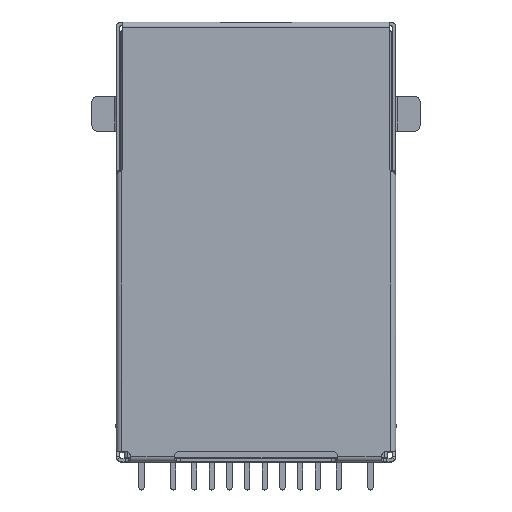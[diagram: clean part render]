
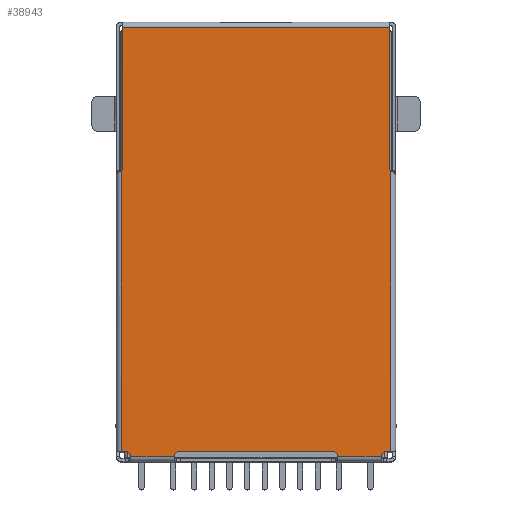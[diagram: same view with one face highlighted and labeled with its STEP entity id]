
A CAD part, top view. The second image highlights one B-rep face of the part: STEP entity #38943.
In plain terms, the highlighted planar face has unit normal (0, 0, 1).
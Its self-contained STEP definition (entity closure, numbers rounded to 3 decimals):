
#6698=DIRECTION('',(0.707,-0.707,0.));
#6699=VECTOR('',#6698,0.061);
#6700=CARTESIAN_POINT('',(7.725,-8.292,6.77));
#6701=LINE('',#6700,#6699);
#6702=CARTESIAN_POINT('',(7.538,-24.85,6.77));
#6703=DIRECTION('',(0.,0.,1.));
#6704=DIRECTION('',(0.,1.,0.));
#6705=AXIS2_PLACEMENT_3D('',#6702,#6703,#6704);
#6707=CARTESIAN_POINT('',(4.375,-24.85,6.77));
#6708=DIRECTION('',(0.,0.,1.));
#6709=DIRECTION('',(1.,0.,0.));
#6710=AXIS2_PLACEMENT_3D('',#6707,#6708,#6709);
#6712=CARTESIAN_POINT('',(-4.375,-24.85,
6.77));
#6713=DIRECTION('',(0.,0.,1.));
#6714=DIRECTION('',(0.,1.,0.));
#6715=AXIS2_PLACEMENT_3D('',#6712,#6713,#6714);
#6717=CARTESIAN_POINT('',(-7.537,-24.85,
6.77));
#6718=DIRECTION('',(0.,0.,1.));
#6719=DIRECTION('',(1.,0.,0.));
#6720=AXIS2_PLACEMENT_3D('',#6717,#6718,#6719);
#6722=DIRECTION('',(0.707,0.707,0.));
#6723=VECTOR('',#6722,0.061);
#6724=CARTESIAN_POINT('',(-7.767,-8.335,
6.77));
#6725=LINE('',#6724,#6723);
#6726=DIRECTION('',(0.,1.,0.));
#6727=VECTOR('',#6726,8.242);
#6728=CARTESIAN_POINT('',(-7.725,-8.292,
6.77));
#6729=LINE('',#6728,#6727);
#6730=DIRECTION('',(1.,0.,0.));
#6731=VECTOR('',#6730,15.45);
#6732=CARTESIAN_POINT('',(-7.725,-0.05,
6.77));
#6733=LINE('',#6732,#6731);
#6734=DIRECTION('',(0.,1.,0.));
#6735=VECTOR('',#6734,8.242);
#6736=CARTESIAN_POINT('',(7.725,-8.292,6.77));
#6737=LINE('',#6736,#6735);
#6826=DIRECTION('',(0.,-1.,0.));
#6827=VECTOR('',#6826,16.215);
#6828=CARTESIAN_POINT('',(-7.767,-8.335,
6.77));
#6829=LINE('',#6828,#6827);
#6855=DIRECTION('',(1.,0.,0.));
#6856=VECTOR('',#6855,0.231);
#6857=CARTESIAN_POINT('',(-7.767,-24.55,
6.77));
#6858=LINE('',#6857,#6856);
#7059=DIRECTION('',(1.,0.,0.));
#7060=VECTOR('',#7059,2.537);
#7061=CARTESIAN_POINT('',(-7.237,-24.85,
6.77));
#7062=LINE('',#7061,#7060);
#7075=DIRECTION('',(1.,0.,0.));
#7076=VECTOR('',#7075,8.75);
#7077=CARTESIAN_POINT('',(-4.375,-24.525,
6.77));
#7078=LINE('',#7077,#7076);
#7548=DIRECTION('',(1.,0.,0.));
#7549=VECTOR('',#7548,2.537);
#7550=CARTESIAN_POINT('',(4.7,-24.85,6.77));
#7551=LINE('',#7550,#7549);
#7560=DIRECTION('',(1.,0.,0.));
#7561=VECTOR('',#7560,0.231);
#7562=CARTESIAN_POINT('',(7.538,-24.55,6.77));
#7563=LINE('',#7562,#7561);
#7589=DIRECTION('',(0.,1.,0.));
#7590=VECTOR('',#7589,16.215);
#7591=CARTESIAN_POINT('',(7.768,-24.55,6.77));
#7592=LINE('',#7591,#7590);
#24839=CARTESIAN_POINT('',(-7.725,-0.05,
6.77));
#24840=VERTEX_POINT('',#24839);
#24842=CARTESIAN_POINT('',(-7.725,-8.292,
6.77));
#24844=VERTEX_POINT('',#24842);
#24845=CARTESIAN_POINT('',(7.725,-8.292,
6.77));
#24846=CARTESIAN_POINT('',(7.768,-8.335,
6.77));
#24847=VERTEX_POINT('',#24845);
#24848=VERTEX_POINT('',#24846);
#24849=CARTESIAN_POINT('',(7.538,-24.55,
6.77));
#24850=CARTESIAN_POINT('',(7.238,-24.85,
6.77));
#24851=VERTEX_POINT('',#24849);
#24852=VERTEX_POINT('',#24850);
#24853=CARTESIAN_POINT('',(4.7,-24.85,
6.77));
#24854=CARTESIAN_POINT('',(4.375,-24.525,
6.77));
#24855=VERTEX_POINT('',#24853);
#24856=VERTEX_POINT('',#24854);
#24857=CARTESIAN_POINT('',(-4.375,-24.525,
6.77));
#24858=CARTESIAN_POINT('',(-4.7,-24.85,
6.77));
#24859=VERTEX_POINT('',#24857);
#24860=VERTEX_POINT('',#24858);
#24861=CARTESIAN_POINT('',(-7.237,-24.85,
6.77));
#24862=CARTESIAN_POINT('',(-7.537,-24.55,
6.77));
#24863=VERTEX_POINT('',#24861);
#24864=VERTEX_POINT('',#24862);
#24865=CARTESIAN_POINT('',(-7.767,-8.335,
6.77));
#24866=VERTEX_POINT('',#24865);
#24867=CARTESIAN_POINT('',(7.725,-0.05,
6.77));
#24868=VERTEX_POINT('',#24867);
#24898=CARTESIAN_POINT('',(-7.767,-24.55,
6.77));
#24899=VERTEX_POINT('',#24898);
#25059=CARTESIAN_POINT('',(7.768,-24.55,
6.77));
#25060=VERTEX_POINT('',#25059);
#38907=CARTESIAN_POINT('',(0.,-12.45,
6.77));
#38908=DIRECTION('',(0.,0.,1.));
#38909=DIRECTION('',(-1.,0.,0.));
#38910=AXIS2_PLACEMENT_3D('',#38907,#38908,#38909);
#38911=PLANE('',#38910);
#38913=ORIENTED_EDGE('',*,*,#38912,.F.);
#38915=ORIENTED_EDGE('',*,*,#38914,.T.);
#38917=ORIENTED_EDGE('',*,*,#38916,.F.);
#38919=ORIENTED_EDGE('',*,*,#38918,.F.);
#38921=ORIENTED_EDGE('',*,*,#38920,.T.);
#38923=ORIENTED_EDGE('',*,*,#38922,.F.);
#38925=ORIENTED_EDGE('',*,*,#38924,.T.);
#38927=ORIENTED_EDGE('',*,*,#38926,.F.);
#38929=ORIENTED_EDGE('',*,*,#38928,.T.);
#38931=ORIENTED_EDGE('',*,*,#38930,.F.);
#38933=ORIENTED_EDGE('',*,*,#38932,.T.);
#38935=ORIENTED_EDGE('',*,*,#38934,.F.);
#38937=ORIENTED_EDGE('',*,*,#38936,.F.);
#38938=ORIENTED_EDGE('',*,*,#38898,.T.);
#38939=ORIENTED_EDGE('',*,*,#38887,.T.);
#38940=ORIENTED_EDGE('',*,*,#38154,.T.);
#38941=EDGE_LOOP('',(#38913,#38915,#38917,#38919,#38921,#38923,#38925,#38927,
#38929,#38931,#38933,#38935,#38937,#38938,#38939,#38940));
#38942=FACE_OUTER_BOUND('',#38941,.F.);
#38943=ADVANCED_FACE('',(#38942),#38911,.T.);
#6706=CIRCLE('',#6705,0.3);
#6711=CIRCLE('',#6710,0.325);
#6716=CIRCLE('',#6715,0.325);
#6721=CIRCLE('',#6720,0.3);
#38154=EDGE_CURVE('',#24840,#24868,#6733,.T.);
#38887=EDGE_CURVE('',#24844,#24840,#6729,.T.);
#38898=EDGE_CURVE('',#24866,#24844,#6725,.T.);
#38912=EDGE_CURVE('',#24847,#24868,#6737,.T.);
#38914=EDGE_CURVE('',#24847,#24848,#6701,.T.);
#38916=EDGE_CURVE('',#25060,#24848,#7592,.T.);
#38918=EDGE_CURVE('',#24851,#25060,#7563,.T.);
#38920=EDGE_CURVE('',#24851,#24852,#6706,.T.);
#38922=EDGE_CURVE('',#24855,#24852,#7551,.T.);
#38924=EDGE_CURVE('',#24855,#24856,#6711,.T.);
#38926=EDGE_CURVE('',#24859,#24856,#7078,.T.);
#38928=EDGE_CURVE('',#24859,#24860,#6716,.T.);
#38930=EDGE_CURVE('',#24863,#24860,#7062,.T.);
#38932=EDGE_CURVE('',#24863,#24864,#6721,.T.);
#38934=EDGE_CURVE('',#24899,#24864,#6858,.T.);
#38936=EDGE_CURVE('',#24866,#24899,#6829,.T.);
